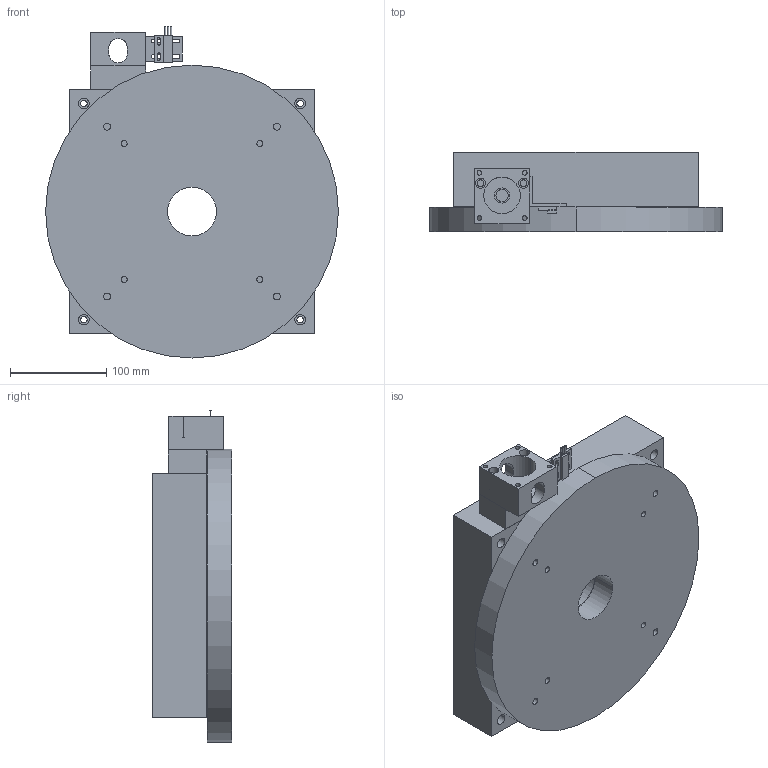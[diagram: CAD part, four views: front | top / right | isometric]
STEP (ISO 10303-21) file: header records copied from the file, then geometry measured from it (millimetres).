
FILE_DESCRIPTION((''),'2;1');
FILE_NAME('M212-ROTARY-T3_ASM','2005-02-18T',('BF20108'),(''),'PRO/ENGINEER BY PARAMETRIC TECHNOLOGY CORPORATION, 2004400','PRO/ENGINEER BY PARAMETRIC TECHNOLOGY CORPORATION, 2004400','');
FILE_SCHEMA(('CONFIG_CONTROL_DESIGN'));
Length unit declared in the file: inch
Products named in the file (8): M10RO-BASE; M12RO-TOP-T3; SPACER-270; E-0176-01; 000-4457-SW-BRKT; 003-1145-SWITCH; ROTARY-TBL-HOME-SW_ASM; M212-ROTARY-T3_ASM
Assembly tree (7 placements, depth 3):
  M212-ROTARY-T3_ASM
    M10RO-BASE
    M12RO-TOP-T3
    SPACER-270
    E-0176-01
    ROTARY-TBL-HOME-SW_ASM
      000-4457-SW-BRKT
      003-1145-SWITCH
Bounding box: 304.8 x 82.55 x 345.53 mm (x, y, z)
Volume: 5421673.9 mm3; surface area: 409988.1 mm2
Topology: 6 solids, 6 shells, 155 faces, 400 edges, 266 vertices
Faces by surface type: cylinder 90, plane 65
Entity records: 5222 total; most frequent: DIRECTION 916, CARTESIAN_POINT 914, ORIENTED_EDGE 800, EDGE_CURVE 400, AXIS2_PLACEMENT_3D 350, VERTEX_POINT 266, EDGE_LOOP 230, VECTOR 216
